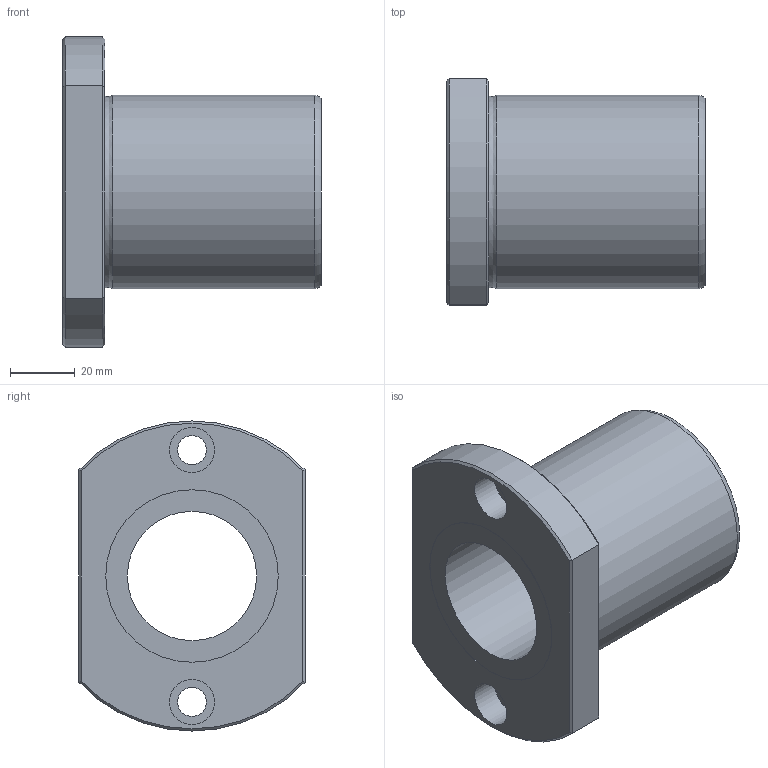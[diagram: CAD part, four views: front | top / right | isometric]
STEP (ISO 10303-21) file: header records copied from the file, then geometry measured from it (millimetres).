
FILE_DESCRIPTION((''),'2;1');
FILE_NAME('D:\製品 (図面)\カタログ用3D\リニアベアリング関連\STEP形式\LFT\LFT40.stp','2010-06-04T09:19:45',('Tsuchiya'),(''),'Autodesk Inventor 10','Autodesk Inventor 10','');
FILE_SCHEMA(('AUTOMOTIVE_DESIGN { 1 0 10303 214 1 1 1 1 }'));
Length unit declared in the file: millimetre
Products named in the file (1): LFT40
Bounding box: 80 x 70 x 96 mm (x, y, z)
Volume: 163860 mm3; surface area: 36507.3 mm2
Topology: 1 solids, 1 shells, 29 faces, 56 edges, 34 vertices
Faces by surface type: plane 13, cylinder 10, cone 4, torus 1, bspline 1
Full cylindrical faces by diameter (mm): 9 x2, 14 x2, 40 x1, 53.4 x2, 60 x1
Entity records: 787 total; most frequent: CARTESIAN_POINT 196, DIRECTION 122, ORIENTED_EDGE 92, AXIS2_PLACEMENT_3D 55, EDGE_LOOP 50, EDGE_CURVE 46, VERTEX_POINT 34, FACE_OUTER_BOUND 29
